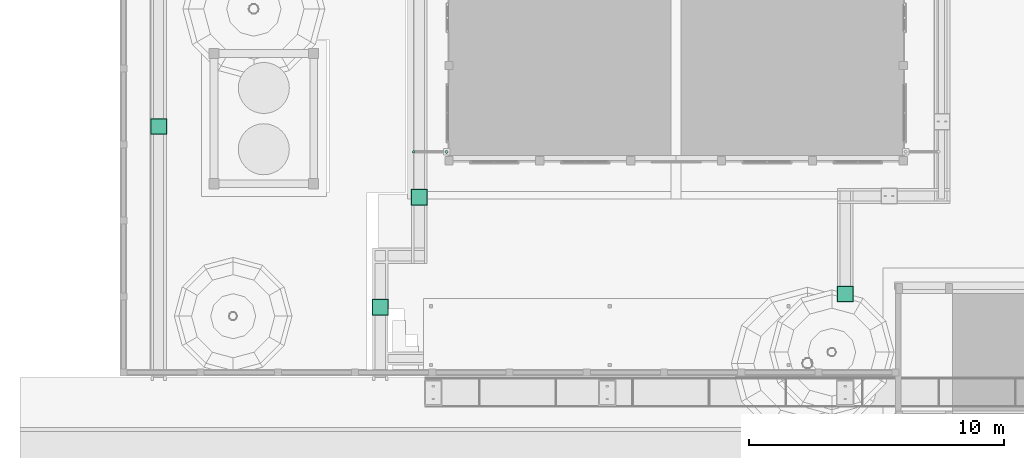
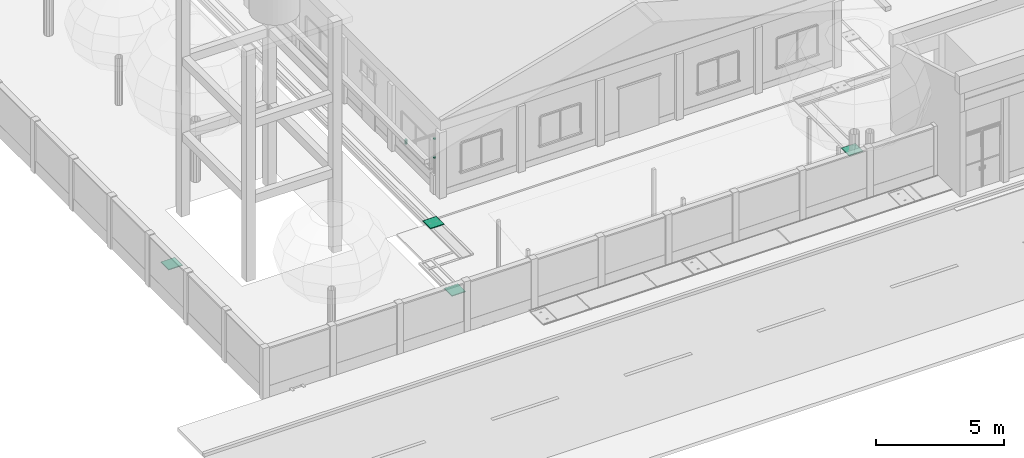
# One storey, part 117 of 177: 8 distribution chamber elements, 3 pipe segments.
"""IFC4 building model written with IfcOpenShell, lengths in metres."""

from ifc_helpers import new_model, si_unit, origin, origin_with_axes, place, context, subcontext, project, spatial, triangles, element, save


model = new_model("IFC4")

# Units and contexts
model_context = context("Model", 3, precision=1e-05, world=origin_with_axes())
body_context = subcontext(model_context, "Body", "Model", "MODEL_VIEW")
ifc_project = project(units=[si_unit("LENGTHUNIT", "METRE"), si_unit("AREAUNIT", "SQUARE_METRE"), si_unit("VOLUMEUNIT", "CUBIC_METRE"), si_unit("PLANEANGLEUNIT", "RADIAN")], contexts=[model_context])

# Site, building, storey
site_placement = place(None, origin_with_axes())
site = spatial("IfcSite", under=ifc_project, at=site_placement, Name="Predio Los Mangos - Morales, San Martín", CompositionType="ELEMENT")
building_placement = place(site_placement, origin())
building = spatial("IfcBuilding", under=site, at=building_placement, Name="Hogar de Refugio Temporal", CompositionType="ELEMENT")
storey_placement = place(building_placement, origin())
storey = spatial("IfcBuildingStorey", under=building, at=storey_placement, Name="NIVEL 1 (NPT +0.00)", CompositionType="ELEMENT", Elevation=0.0)

# Pipe segments
pipe_segment_1_placement = place(storey_placement, origin())
element("IfcPipeSegment", 1, at=pipe_segment_1_placement, inside=storey, Name="montante_boquilla", ObjectType="Montante PVC 4\"", PredefinedType="RIGIDSEGMENT", context=body_context, shape_type="Tessellation", body=[
    triangles([(12.42, 26.705, 3.13), (12.42, 26.705, 2.91), (12.3925, 26.6976, 3.13), (12.3925, 26.6976, 2.91), (12.3724, 26.6775, 3.13), (12.3724, 26.6775, 2.91), (12.365, 26.65, 3.13), (12.365, 26.65, 2.91), (12.3724, 26.6225, 3.13), (12.3724, 26.6225, 2.91), (12.3925, 26.6024, 3.13), (12.3925, 26.6024, 2.91), (12.42, 26.595, 3.13), (12.42, 26.595, 2.91), (12.4475, 26.6024, 3.13), (12.4475, 26.6024, 2.91), (12.4676, 26.6225, 3.13), (12.4676, 26.6225, 2.91), (12.475, 26.65, 3.13), (12.475, 26.65, 2.91), (12.4676, 26.6775, 3.13), (12.4676, 26.6775, 2.91), (12.4475, 26.6976, 3.13), (12.4475, 26.6976, 2.91)], [[1, 2, 4], [1, 4, 3], [3, 4, 6], [3, 6, 5], [5, 6, 8], [5, 8, 7], [7, 8, 10], [7, 10, 9], [9, 10, 12], [9, 12, 11], [11, 12, 14], [11, 14, 13], [13, 14, 16], [13, 16, 15], [15, 16, 18], [15, 18, 17], [17, 18, 20], [17, 20, 19], [19, 20, 22], [19, 22, 21], [6, 4, 2], [2, 24, 22], [22, 20, 18], [18, 16, 14], [14, 12, 10], [10, 8, 6], [6, 2, 22], [22, 18, 14], [14, 10, 6], [22, 14, 6], [21, 22, 24], [21, 24, 23], [23, 24, 2], [23, 2, 1], [23, 1, 3], [3, 5, 7], [7, 9, 11], [11, 13, 15], [15, 17, 19], [19, 21, 23], [23, 3, 7], [7, 11, 15], [15, 19, 23], [7, 15, 23]]),
])
pipe_segment_2_placement = place(storey_placement, origin())
element("IfcPipeSegment", 2, at=pipe_segment_2_placement, inside=storey, Name="montante_abrazadera", ObjectType="Montante PVC 4\"", PredefinedType="RIGIDSEGMENT", context=body_context, shape_type="Tessellation", body=[
    triangles([(13.71, 26.588, 1.8), (13.71, 26.588, 1.84), (13.679, 26.5963, 1.8), (13.679, 26.5963, 1.84), (13.6563, 26.619, 1.8), (13.6563, 26.619, 1.84), (13.648, 26.65, 1.8), (13.648, 26.65, 1.84), (13.6563, 26.681, 1.8), (13.6563, 26.681, 1.84), (13.679, 26.7037, 1.8), (13.679, 26.7037, 1.84), (13.71, 26.712, 1.8), (13.71, 26.712, 1.84), (13.741, 26.7037, 1.8), (13.741, 26.7037, 1.84), (13.7637, 26.681, 1.8), (13.7637, 26.681, 1.84), (13.772, 26.65, 1.8), (13.772, 26.65, 1.84), (13.7637, 26.619, 1.8), (13.7637, 26.619, 1.84), (13.741, 26.5963, 1.8), (13.741, 26.5963, 1.84)], [[1, 2, 4], [1, 4, 3], [3, 4, 6], [3, 6, 5], [5, 6, 8], [5, 8, 7], [7, 8, 10], [7, 10, 9], [9, 10, 12], [9, 12, 11], [11, 12, 14], [11, 14, 13], [13, 14, 16], [13, 16, 15], [15, 16, 18], [15, 18, 17], [17, 18, 20], [17, 20, 19], [19, 20, 22], [19, 22, 21], [6, 4, 2], [2, 24, 22], [22, 20, 18], [18, 16, 14], [14, 12, 10], [10, 8, 6], [6, 2, 22], [22, 18, 14], [14, 10, 6], [22, 14, 6], [21, 22, 24], [21, 24, 23], [23, 24, 2], [23, 2, 1], [23, 1, 3], [3, 5, 7], [7, 9, 11], [11, 13, 15], [15, 17, 19], [19, 21, 23], [23, 3, 7], [7, 11, 15], [15, 19, 23], [7, 15, 23]]),
])
pipe_segment_3_placement = place(storey_placement, origin())
element("IfcPipeSegment", 3, at=pipe_segment_3_placement, inside=storey, Name="montante_abrazadera", ObjectType="Montante PVC 4\"", PredefinedType="RIGIDSEGMENT", context=body_context, shape_type="Tessellation", body=[
    triangles([(13.71, 26.588, 2.7), (13.71, 26.588, 2.74), (13.679, 26.5963, 2.7), (13.679, 26.5963, 2.74), (13.6563, 26.619, 2.7), (13.6563, 26.619, 2.74), (13.648, 26.65, 2.7), (13.648, 26.65, 2.74), (13.6563, 26.681, 2.7), (13.6563, 26.681, 2.74), (13.679, 26.7037, 2.7), (13.679, 26.7037, 2.74), (13.71, 26.712, 2.7), (13.71, 26.712, 2.74), (13.741, 26.7037, 2.7), (13.741, 26.7037, 2.74), (13.7637, 26.681, 2.7), (13.7637, 26.681, 2.74), (13.772, 26.65, 2.7), (13.772, 26.65, 2.74), (13.7637, 26.619, 2.7), (13.7637, 26.619, 2.74), (13.741, 26.5963, 2.7), (13.741, 26.5963, 2.74)], [[1, 2, 4], [1, 4, 3], [3, 4, 6], [3, 6, 5], [5, 6, 8], [5, 8, 7], [7, 8, 10], [7, 10, 9], [9, 10, 12], [9, 12, 11], [11, 12, 14], [11, 14, 13], [13, 14, 16], [13, 16, 15], [15, 16, 18], [15, 18, 17], [17, 18, 20], [17, 20, 19], [19, 20, 22], [19, 22, 21], [6, 4, 2], [2, 24, 22], [22, 20, 18], [18, 16, 14], [14, 12, 10], [10, 8, 6], [6, 2, 22], [22, 18, 14], [14, 10, 6], [22, 14, 6], [21, 22, 24], [21, 24, 23], [23, 24, 2], [23, 2, 1], [23, 1, 3], [3, 5, 7], [7, 9, 11], [11, 13, 15], [15, 17, 19], [19, 21, 23], [23, 3, 7], [7, 11, 15], [15, 19, 23], [7, 15, 23]]),
])

# Distribution chamber elements
distribution_chamber_element_1_placement = place(storey_placement, origin())
element("IfcDistributionChamberElement", 4, at=distribution_chamber_element_1_placement, inside=storey, Name="tapa_insp_junta", ObjectType="Tapa de inspección", PredefinedType="INSPECTIONCHAMBER", context=body_context, shape_type="Tessellation", body=[
    triangles([(2.113, 27.321, 0.082), (2.753, 27.321, 0.082), (2.753, 27.961, 0.082), (2.113, 27.961, 0.082), (2.113, 27.321, 0.096), (2.753, 27.321, 0.096), (2.753, 27.961, 0.096), (2.113, 27.961, 0.096)], [[1, 4, 3], [1, 3, 2], [5, 6, 7], [5, 7, 8], [1, 2, 6], [1, 6, 5], [2, 3, 7], [2, 7, 6], [3, 4, 8], [3, 8, 7], [4, 1, 5], [4, 5, 8]]),
])
distribution_chamber_element_2_placement = place(storey_placement, origin())
element("IfcDistributionChamberElement", 5, at=distribution_chamber_element_2_placement, inside=storey, Name="tapa_inspeccion", ObjectType="Tapa de inspección", PredefinedType="INSPECTIONCHAMBER", context=body_context, shape_type="Tessellation", body=[
    triangles([(2.133, 27.341, 0.082), (2.733, 27.341, 0.082), (2.733, 27.941, 0.082), (2.133, 27.941, 0.082), (2.133, 27.341, 0.104), (2.733, 27.341, 0.104), (2.733, 27.941, 0.104), (2.133, 27.941, 0.104)], [[1, 4, 3], [1, 3, 2], [5, 6, 7], [5, 7, 8], [1, 2, 6], [1, 6, 5], [2, 3, 7], [2, 7, 6], [3, 4, 8], [3, 8, 7], [4, 1, 5], [4, 5, 8]]),
])
distribution_chamber_element_3_placement = place(storey_placement, origin())
element("IfcDistributionChamberElement", 6, at=distribution_chamber_element_3_placement, inside=storey, Name="tapa_insp_junta", ObjectType="Tapa de inspección", PredefinedType="INSPECTIONCHAMBER", context=body_context, shape_type="Tessellation", body=[
    triangles([(12.315, 24.554, 0.148), (12.955, 24.554, 0.148), (12.955, 25.194, 0.148), (12.315, 25.194, 0.148), (12.315, 24.554, 0.162), (12.955, 24.554, 0.162), (12.955, 25.194, 0.162), (12.315, 25.194, 0.162)], [[1, 4, 3], [1, 3, 2], [5, 6, 7], [5, 7, 8], [1, 2, 6], [1, 6, 5], [2, 3, 7], [2, 7, 6], [3, 4, 8], [3, 8, 7], [4, 1, 5], [4, 5, 8]]),
])
distribution_chamber_element_4_placement = place(storey_placement, origin())
element("IfcDistributionChamberElement", 7, at=distribution_chamber_element_4_placement, inside=storey, Name="tapa_inspeccion", ObjectType="Tapa de inspección", PredefinedType="INSPECTIONCHAMBER", context=body_context, shape_type="Tessellation", body=[
    triangles([(12.335, 24.574, 0.148), (12.935, 24.574, 0.148), (12.935, 25.174, 0.148), (12.335, 25.174, 0.148), (12.335, 24.574, 0.17), (12.935, 24.574, 0.17), (12.935, 25.174, 0.17), (12.335, 25.174, 0.17)], [[1, 4, 3], [1, 3, 2], [5, 6, 7], [5, 7, 8], [1, 2, 6], [1, 6, 5], [2, 3, 7], [2, 7, 6], [3, 4, 8], [3, 8, 7], [4, 1, 5], [4, 5, 8]]),
])
distribution_chamber_element_5_placement = place(storey_placement, origin())
element("IfcDistributionChamberElement", 8, at=distribution_chamber_element_5_placement, inside=storey, Name="tapa_insp_junta", ObjectType="Tapa de inspección", PredefinedType="INSPECTIONCHAMBER", context=body_context, shape_type="Tessellation", body=[
    triangles([(10.793, 20.247, 0.082), (11.433, 20.247, 0.082), (11.433, 20.887, 0.082), (10.793, 20.887, 0.082), (10.793, 20.247, 0.096), (11.433, 20.247, 0.096), (11.433, 20.887, 0.096), (10.793, 20.887, 0.096)], [[1, 4, 3], [1, 3, 2], [5, 6, 7], [5, 7, 8], [1, 2, 6], [1, 6, 5], [2, 3, 7], [2, 7, 6], [3, 4, 8], [3, 8, 7], [4, 1, 5], [4, 5, 8]]),
])
distribution_chamber_element_6_placement = place(storey_placement, origin())
element("IfcDistributionChamberElement", 9, at=distribution_chamber_element_6_placement, inside=storey, Name="tapa_inspeccion", ObjectType="Tapa de inspección", PredefinedType="INSPECTIONCHAMBER", context=body_context, shape_type="Tessellation", body=[
    triangles([(10.813, 20.267, 0.082), (11.413, 20.267, 0.082), (11.413, 20.867, 0.082), (10.813, 20.867, 0.082), (10.813, 20.267, 0.104), (11.413, 20.267, 0.104), (11.413, 20.867, 0.104), (10.813, 20.867, 0.104)], [[1, 4, 3], [1, 3, 2], [5, 6, 7], [5, 7, 8], [1, 2, 6], [1, 6, 5], [2, 3, 7], [2, 7, 6], [3, 4, 8], [3, 8, 7], [4, 1, 5], [4, 5, 8]]),
])
distribution_chamber_element_7_placement = place(storey_placement, origin())
element("IfcDistributionChamberElement", 10, at=distribution_chamber_element_7_placement, inside=storey, Name="tapa_insp_junta", ObjectType="Tapa de inspección", PredefinedType="INSPECTIONCHAMBER", context=body_context, shape_type="Tessellation", body=[
    triangles([(29.004, 20.76, 0.082), (29.644, 20.76, 0.082), (29.644, 21.4, 0.082), (29.004, 21.4, 0.082), (29.004, 20.76, 0.096), (29.644, 20.76, 0.096), (29.644, 21.4, 0.096), (29.004, 21.4, 0.096)], [[1, 4, 3], [1, 3, 2], [5, 6, 7], [5, 7, 8], [1, 2, 6], [1, 6, 5], [2, 3, 7], [2, 7, 6], [3, 4, 8], [3, 8, 7], [4, 1, 5], [4, 5, 8]]),
])
distribution_chamber_element_8_placement = place(storey_placement, origin())
element("IfcDistributionChamberElement", 11, at=distribution_chamber_element_8_placement, inside=storey, Name="tapa_inspeccion", ObjectType="Tapa de inspección", PredefinedType="INSPECTIONCHAMBER", context=body_context, shape_type="Tessellation", body=[
    triangles([(29.024, 20.78, 0.082), (29.624, 20.78, 0.082), (29.624, 21.38, 0.082), (29.024, 21.38, 0.082), (29.024, 20.78, 0.104), (29.624, 20.78, 0.104), (29.624, 21.38, 0.104), (29.024, 21.38, 0.104)], [[1, 4, 3], [1, 3, 2], [5, 6, 7], [5, 7, 8], [1, 2, 6], [1, 6, 5], [2, 3, 7], [2, 7, 6], [3, 4, 8], [3, 8, 7], [4, 1, 5], [4, 5, 8]]),
])

save(model, "model.ifc")
